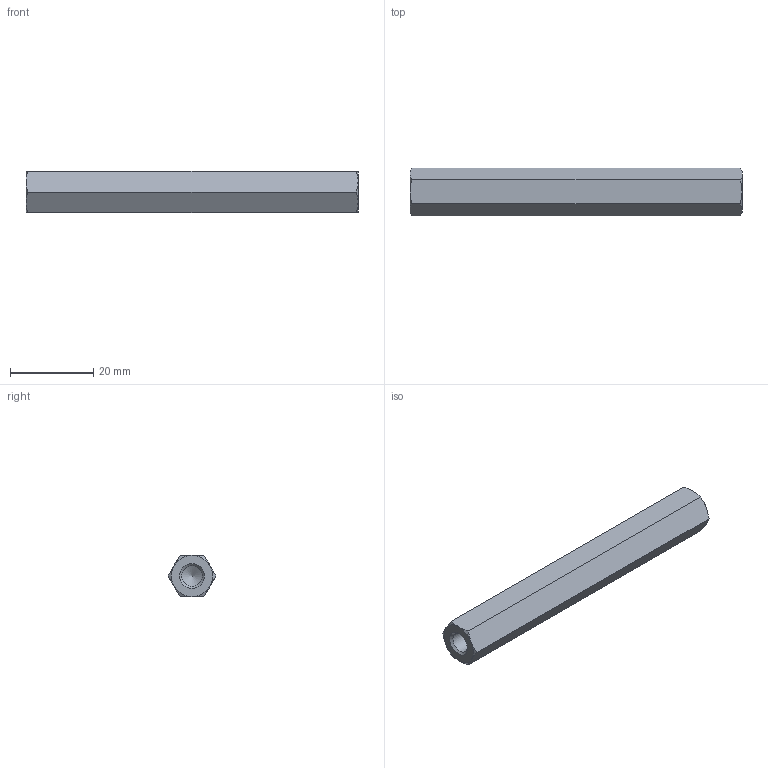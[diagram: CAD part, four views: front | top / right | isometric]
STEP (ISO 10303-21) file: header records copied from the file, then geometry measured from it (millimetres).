
FILE_DESCRIPTION( ( 'STEP AP203' ), '1' );
FILE_NAME( 'C:/Temp/Ganter_Step_05_03_2020/data/3_2/gn6220/gn6220_st/Spacer GN 6220-ST-M6-80-A.stp', '2020-03-13T05:42:31', ( 'License CC BY-ND 4.0' ), ( 'CADENAS' ), ' ', 'PARTsolutions', ' ' );
FILE_SCHEMA( ( 'CONFIG_CONTROL_DESIGN' ) );
Length unit declared in the file: millimetre
Products named in the file (1): _Spacer GN 6220-ST-M6-80-A
Bounding box: 80 x 11.55 x 10 mm (x, y, z)
Volume: 6253.1 mm3; surface area: 3462 mm2
Topology: 1 solids, 1 shells, 26 faces, 57 edges, 33 vertices
Faces by surface type: cone 16, plane 8, cylinder 2
Full cylindrical faces by diameter (mm): 4.917 x2
Entity records: 766 total; most frequent: CARTESIAN_POINT 227, DIRECTION 96, ORIENTED_EDGE 96, EDGE_CURVE 48, AXIS2_PLACEMENT_3D 45, EDGE_LOOP 32, VERTEX_POINT 32, FACE_OUTER_BOUND 28
